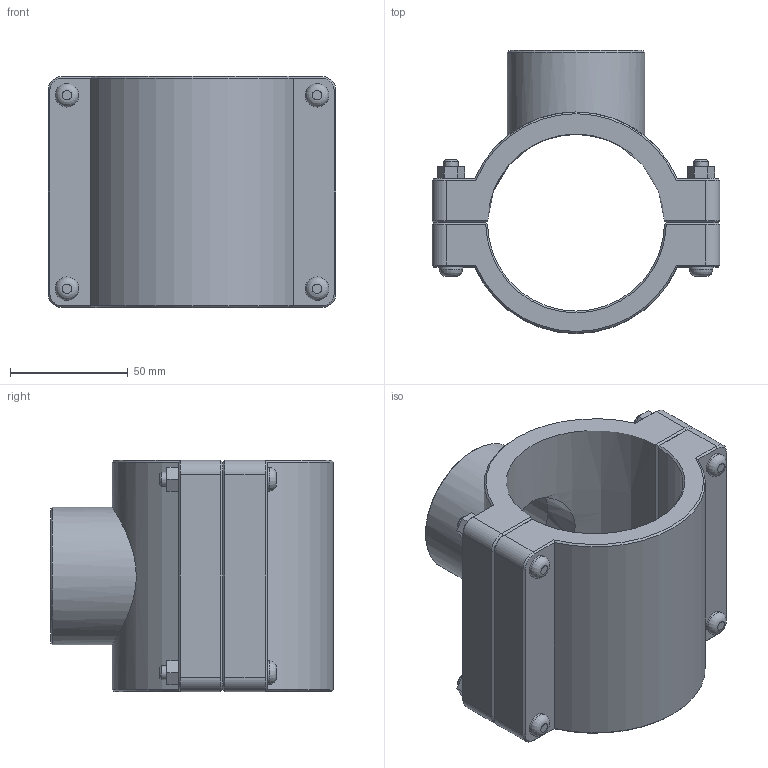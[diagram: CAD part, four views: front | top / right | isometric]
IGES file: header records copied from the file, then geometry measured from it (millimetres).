
Global section: file name: 160760075015_160860075015.ipt; native system: Autodesk Inventor 2015; preprocessor: unknown; author: KIM; date: 20170618.093518; units: millimetre
Bounding box: 122 x 119.88 x 98 mm (x, y, z)
Volume: 379246.4 mm3; surface area: 82420.5 mm2
Topology: 1 solids, 1 shells, 141 faces, 328 edges, 205 vertices
Faces by surface type: plane 82, cone 25, cylinder 23, revolution 11
Full cylindrical faces by diameter (mm): 6 x4, 10 x8, 58.298 x1
